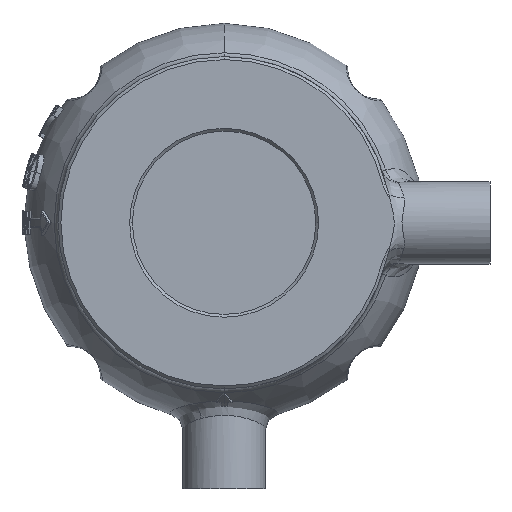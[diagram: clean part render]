
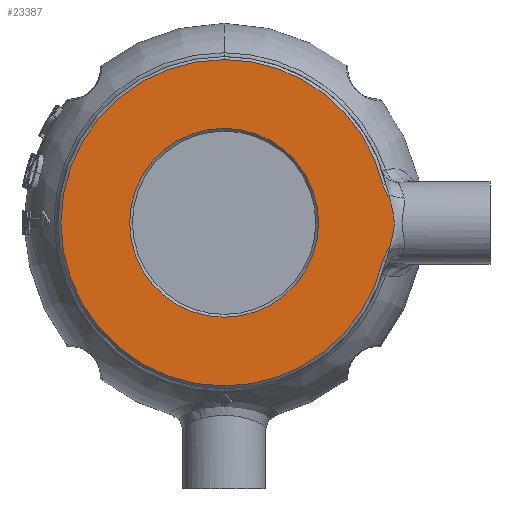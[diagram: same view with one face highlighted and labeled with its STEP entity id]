
A CAD part, front view. The second image highlights one B-rep face of the part: STEP entity #23387.
In plain terms, the highlighted planar face has unit normal (0, -1, 0).
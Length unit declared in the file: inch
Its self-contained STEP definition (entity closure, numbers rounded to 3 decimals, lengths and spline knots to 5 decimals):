
#37 = CARTESIAN_POINT ( 'NONE',  ( 0., -1.35, 0. ) ) ;
#195 = CARTESIAN_POINT ( 'NONE',  ( 1.79968, -1.35, -0.27315 ) ) ;
#820 = CARTESIAN_POINT ( 'NONE',  ( 1.77328, -1.35, 0.31619 ) ) ;
#1011 = DIRECTION ( 'NONE',  ( 0., 0., -1. ) ) ;
#1255 = CARTESIAN_POINT ( 'NONE',  ( 1.81655, -1.35, -0.23002 ) ) ;
#1507 = CARTESIAN_POINT ( 'NONE',  ( 1.75638, -1.35, 0.34698 ) ) ;
#1537 = CARTESIAN_POINT ( 'NONE',  ( 1.74194, -1.35, -0.37914 ) ) ;
#1618 = CIRCLE ( 'NONE', #22907, 1.03 ) ;
#2031 = ORIENTED_EDGE ( 'NONE', *, *, #16461, .F. ) ;
#2704 = DIRECTION ( 'NONE',  ( 0., 1., 0. ) ) ;
#2898 = EDGE_CURVE ( 'NONE', #23644, #8366, #10036, .T. ) ;
#3320 = CARTESIAN_POINT ( 'NONE',  ( 1.7315, -1.35, -0.41268 ) ) ;
#3326 = CARTESIAN_POINT ( 'NONE',  ( 1.83638, -1.35, -0.14732 ) ) ;
#3472 = ORIENTED_EDGE ( 'NONE', *, *, #12615, .T. ) ;
#3638 = CARTESIAN_POINT ( 'NONE',  ( 1.84484, -1.35, 0.10536 ) ) ;
#3704 = FACE_OUTER_BOUND ( 'NONE', #19499, .T. ) ;
#3781 = CARTESIAN_POINT ( 'NONE',  ( 1.85567, -1.35, -0.04274 ) ) ;
#4395 = EDGE_CURVE ( 'NONE', #27998, #26871, #16037, .T. ) ;
#4546 = DIRECTION ( 'NONE',  ( 0., 0., -1. ) ) ;
#4746 = ORIENTED_EDGE ( 'NONE', *, *, #2898, .F. ) ;
#5566 = CARTESIAN_POINT ( 'NONE',  ( 1.77328, -1.35, -0.31619 ) ) ;
#5573 = CARTESIAN_POINT ( 'NONE',  ( 1.83171, -1.35, -0.16807 ) ) ;
#5861 = CARTESIAN_POINT ( 'NONE',  ( 1.75639, -1.35, -0.34698 ) ) ;
#5872 = CARTESIAN_POINT ( 'NONE',  ( 1.85412, -1.35, 0.04193 ) ) ;
#6025 = CARTESIAN_POINT ( 'NONE',  ( 1.83176, -1.35, 0.16787 ) ) ;
#6085 = ORIENTED_EDGE ( 'NONE', *, *, #24703, .F. ) ;
#6174 = VERTEX_POINT ( 'NONE', #15985 ) ;
#6352 = EDGE_CURVE ( 'NONE', #22542, #26871, #13495, .T. ) ;
#8315 = PLANE ( 'NONE',  #24704 ) ;
#8366 = VERTEX_POINT ( 'NONE', #8710 ) ;
#8710 = CARTESIAN_POINT ( 'NONE',  ( 0., -1.35, 1.78 ) ) ;
#9120 = AXIS2_PLACEMENT_3D ( 'NONE', #37, #25250, #23025 ) ;
#9137 = CARTESIAN_POINT ( 'NONE',  ( 1.77328, -1.35, 0.31619 ) ) ;
#9260 = CARTESIAN_POINT ( 'NONE',  ( 1.77328, -1.35, -0.31619 ) ) ;
#9314 = ORIENTED_EDGE ( 'NONE', *, *, #6352, .T. ) ;
#10036 = CIRCLE ( 'NONE', #12411, 1.78 ) ;
#10524 = DIRECTION ( 'NONE',  ( 0., -1., 0. ) ) ;
#11089 = CARTESIAN_POINT ( 'NONE',  ( 0., -1.35, -1.78 ) ) ;
#11114 = VERTEX_POINT ( 'NONE', #22241 ) ;
#11275 = CARTESIAN_POINT ( 'NONE',  ( 1.03, -1.35, 0. ) ) ;
#11659 = CARTESIAN_POINT ( 'NONE',  ( 1.79971, -1.35, 0.27308 ) ) ;
#11797 = CARTESIAN_POINT ( 'NONE',  ( 1.81113, -1.34989, 0.25043 ) ) ;
#11807 = ORIENTED_EDGE ( 'NONE', *, *, #4395, .F. ) ;
#12029 = B_SPLINE_CURVE_WITH_KNOTS ( 'NONE', 3,
 ( #12954, #13779, #1507, #27402 ),
 .UNSPECIFIED., .F., .F.,
 ( 4, 4 ),
 ( 0., 0.00267 ),
 .UNSPECIFIED. ) ;
#12411 = AXIS2_PLACEMENT_3D ( 'NONE', #15975, #15836, #22219 ) ;
#12451 = FACE_BOUND ( 'NONE', #27084, .T. ) ;
#12615 = EDGE_CURVE ( 'NONE', #22109, #11114, #1618, .T. ) ;
#12695 = CARTESIAN_POINT ( 'NONE',  ( 1.83642, -1.35, 0.14711 ) ) ;
#12954 = CARTESIAN_POINT ( 'NONE',  ( 1.7315, -1.35, 0.41268 ) ) ;
#13138 = CARTESIAN_POINT ( 'NONE',  ( 1.81659, -1.35, 0.22989 ) ) ;
#13163 = CARTESIAN_POINT ( 'NONE',  ( 0., -1.35, 0. ) ) ;
#13495 = B_SPLINE_CURVE_WITH_KNOTS ( 'NONE', 3,
 ( #21575, #1255, #19484, #5573, #3326, #17104, #3781, #26156, #5872, #14905, #3638, #12695, #6025, #22454, #13138, #15498 ),
 .UNSPECIFIED., .F., .F.,
 ( 4, 2, 2, 2, 2, 2, 2, 4 ),
 ( 0.00228, 0.0039, 0.00552, 0.00875, 0.01037, 0.01199, 0.01361, 0.01523 ),
 .UNSPECIFIED. ) ;
#13779 = CARTESIAN_POINT ( 'NONE',  ( 1.74194, -1.35, 0.37914 ) ) ;
#13853 = CARTESIAN_POINT ( 'NONE',  ( 1.77328, -1.35, -0.31619 ) ) ;
#14463 = AXIS2_PLACEMENT_3D ( 'NONE', #21858, #16812, #17261 ) ;
#14905 = CARTESIAN_POINT ( 'NONE',  ( 1.84861, -1.35, 0.08438 ) ) ;
#15437 = B_SPLINE_CURVE_WITH_KNOTS ( 'NONE', 3,
 ( #25098, #195, #16056, #9260 ),
 .UNSPECIFIED., .F., .F.,
 ( 4, 4 ),
 ( 0.00003, 0.00196 ),
 .UNSPECIFIED. ) ;
#15498 = CARTESIAN_POINT ( 'NONE',  ( 1.81113, -1.34989, 0.25043 ) ) ;
#15597 = B_SPLINE_CURVE_WITH_KNOTS ( 'NONE', 3,
 ( #5566, #5861, #1537, #3320 ),
 .UNSPECIFIED., .F., .F.,
 ( 4, 4 ),
 ( 0., 0.00267 ),
 .UNSPECIFIED. ) ;
#15836 = DIRECTION ( 'NONE',  ( 0., 1., 0. ) ) ;
#15975 = CARTESIAN_POINT ( 'NONE',  ( 0., -1.35, 0. ) ) ;
#15985 = CARTESIAN_POINT ( 'NONE',  ( 1.7315, -1.35, -0.41268 ) ) ;
#16037 = B_SPLINE_CURVE_WITH_KNOTS ( 'NONE', 3,
 ( #9137, #18319, #11659, #11797 ),
 .UNSPECIFIED., .F., .F.,
 ( 4, 4 ),
 ( 0., 0.00193 ),
 .UNSPECIFIED. ) ;
#16056 = CARTESIAN_POINT ( 'NONE',  ( 1.78701, -1.35, -0.29497 ) ) ;
#16249 = CARTESIAN_POINT ( 'NONE',  ( 1.81113, -1.34989, 0.25043 ) ) ;
#16461 = EDGE_CURVE ( 'NONE', #8366, #24967, #25341, .T. ) ;
#16749 = ORIENTED_EDGE ( 'NONE', *, *, #16822, .F. ) ;
#16765 = EDGE_CURVE ( 'NONE', #11114, #22109, #27247, .T. ) ;
#16812 = DIRECTION ( 'NONE',  ( 0., 1., 0. ) ) ;
#16822 = EDGE_CURVE ( 'NONE', #26022, #6174, #15597, .T. ) ;
#17104 = CARTESIAN_POINT ( 'NONE',  ( 1.84902, -1.35, -0.08471 ) ) ;
#17261 = DIRECTION ( 'NONE',  ( 0., 0., -1. ) ) ;
#18319 = CARTESIAN_POINT ( 'NONE',  ( 1.78706, -1.35, 0.29496 ) ) ;
#18336 = ORIENTED_EDGE ( 'NONE', *, *, #24547, .F. ) ;
#18855 = CARTESIAN_POINT ( 'NONE',  ( 0., -1.35, 0. ) ) ;
#19379 = CARTESIAN_POINT ( 'NONE',  ( 1.81111, -1.34988, -0.25053 ) ) ;
#19484 = CARTESIAN_POINT ( 'NONE',  ( 1.8218, -1.35, -0.20942 ) ) ;
#19499 = EDGE_LOOP ( 'NONE', ( #18336, #16749, #25847, #9314, #11807, #6085, #2031, #4746 ) ) ;
#19516 = CIRCLE ( 'NONE', #9120, 1.78 ) ;
#21575 = CARTESIAN_POINT ( 'NONE',  ( 1.81111, -1.34988, -0.25053 ) ) ;
#21858 = CARTESIAN_POINT ( 'NONE',  ( 0., -1.35, 0. ) ) ;
#22109 = VERTEX_POINT ( 'NONE', #11275 ) ;
#22219 = DIRECTION ( 'NONE',  ( 0., 0., -1. ) ) ;
#22241 = CARTESIAN_POINT ( 'NONE',  ( -1.03, -1.35, 0. ) ) ;
#22269 = ORIENTED_EDGE ( 'NONE', *, *, #16765, .T. ) ;
#22454 = CARTESIAN_POINT ( 'NONE',  ( 1.82184, -1.35, 0.20926 ) ) ;
#22479 = DIRECTION ( 'NONE',  ( 0., 1., 0. ) ) ;
#22542 = VERTEX_POINT ( 'NONE', #19379 ) ;
#22907 = AXIS2_PLACEMENT_3D ( 'NONE', #18855, #2704, #27889 ) ;
#23025 = DIRECTION ( 'NONE',  ( 0., 0., -1. ) ) ;
#23102 = CARTESIAN_POINT ( 'NONE',  ( 1.7315, -1.35, 0.41268 ) ) ;
#23387 = ADVANCED_FACE ( 'NONE', ( #3704, #12451 ), #8315, .T. ) ;
#23644 = VERTEX_POINT ( 'NONE', #11089 ) ;
#24547 = EDGE_CURVE ( 'NONE', #6174, #23644, #19516, .T. ) ;
#24703 = EDGE_CURVE ( 'NONE', #24967, #27998, #12029, .T. ) ;
#24704 = AXIS2_PLACEMENT_3D ( 'NONE', #28302, #10524, #1011 ) ;
#24967 = VERTEX_POINT ( 'NONE', #23102 ) ;
#25098 = CARTESIAN_POINT ( 'NONE',  ( 1.81111, -1.34988, -0.25053 ) ) ;
#25250 = DIRECTION ( 'NONE',  ( 0., 1., 0. ) ) ;
#25341 = CIRCLE ( 'NONE', #27705, 1.78 ) ;
#25847 = ORIENTED_EDGE ( 'NONE', *, *, #27736, .F. ) ;
#26022 = VERTEX_POINT ( 'NONE', #13853 ) ;
#26156 = CARTESIAN_POINT ( 'NONE',  ( 1.85574, -1.35, 0.02066 ) ) ;
#26871 = VERTEX_POINT ( 'NONE', #16249 ) ;
#27084 = EDGE_LOOP ( 'NONE', ( #3472, #22269 ) ) ;
#27247 = CIRCLE ( 'NONE', #14463, 1.03 ) ;
#27402 = CARTESIAN_POINT ( 'NONE',  ( 1.77328, -1.35, 0.31619 ) ) ;
#27705 = AXIS2_PLACEMENT_3D ( 'NONE', #13163, #22479, #4546 ) ;
#27736 = EDGE_CURVE ( 'NONE', #22542, #26022, #15437, .T. ) ;
#27889 = DIRECTION ( 'NONE',  ( 0., 0., -1. ) ) ;
#27998 = VERTEX_POINT ( 'NONE', #820 ) ;
#28302 = CARTESIAN_POINT ( 'NONE',  ( -2., -1.35, 0. ) ) ;
